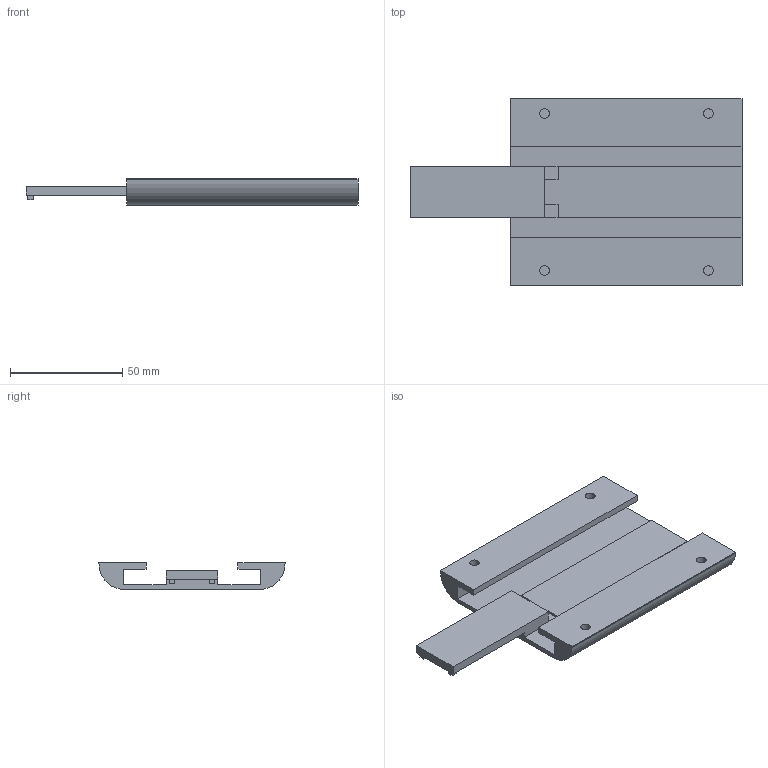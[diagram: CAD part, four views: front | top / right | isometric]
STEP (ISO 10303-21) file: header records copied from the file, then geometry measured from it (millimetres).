
FILE_DESCRIPTION(('HOOPS Exchange Step'),'2;1');
FILE_NAME('/Users/tim/Library/Containers/com.shapr3d.shapr/Data/tmp/export/temp_export','2024-03-22T11:56:28-04:00',('tim'),('Shapr3D Limited'),'HOOPS Exchange 2023.2','Shapr3D','Authorized');
FILE_SCHEMA( ('AUTOMOTIVE_DESIGN { 1 0 10303 214 1 1 1 1 }') );
Length unit declared in the file: millimetre
Products named in the file (1): V1 Final Frame
Bounding box: 148 x 83 x 12 mm (x, y, z)
Volume: 47246.1 mm3; surface area: 29542.5 mm2
Topology: 1 solids, 1 shells, 74 faces, 186 edges, 124 vertices
Faces by surface type: plane 64, cylinder 10
Full cylindrical faces by diameter (mm): 4.25 x8
Entity records: 2234 total; most frequent: CARTESIAN_POINT 385, ORIENTED_EDGE 372, DIRECTION 360, EDGE_CURVE 186, VECTOR 162, LINE 162, VERTEX_POINT 124, AXIS2_PLACEMENT_3D 99
